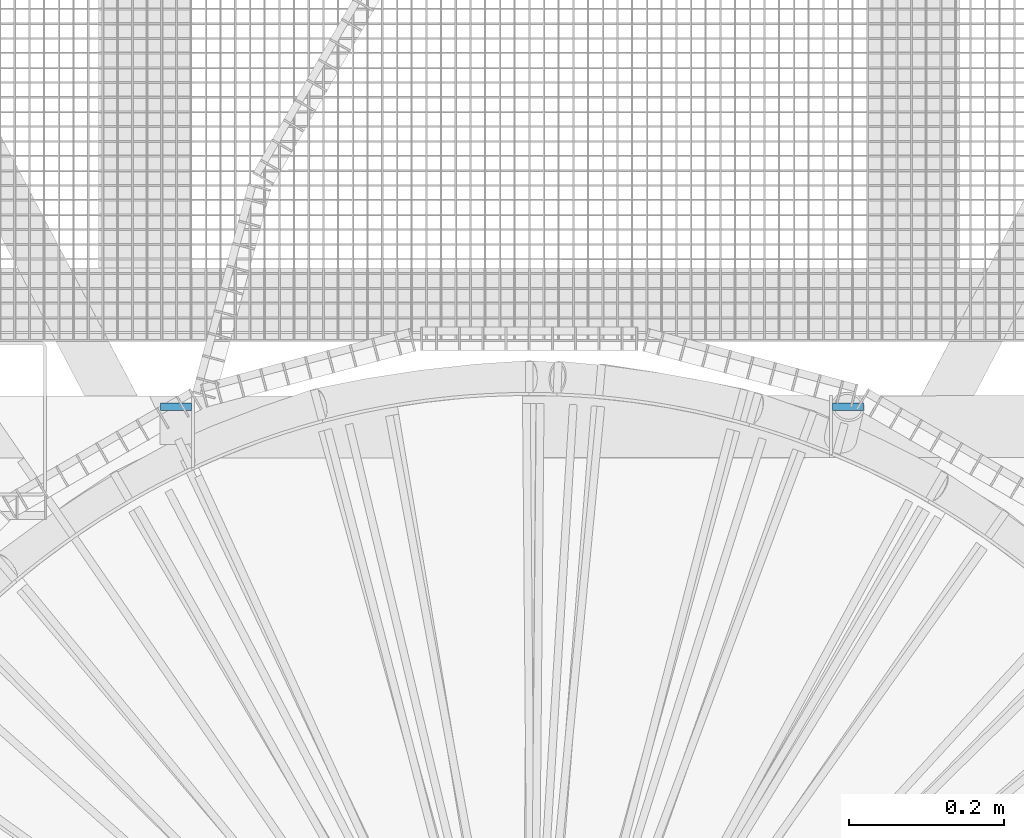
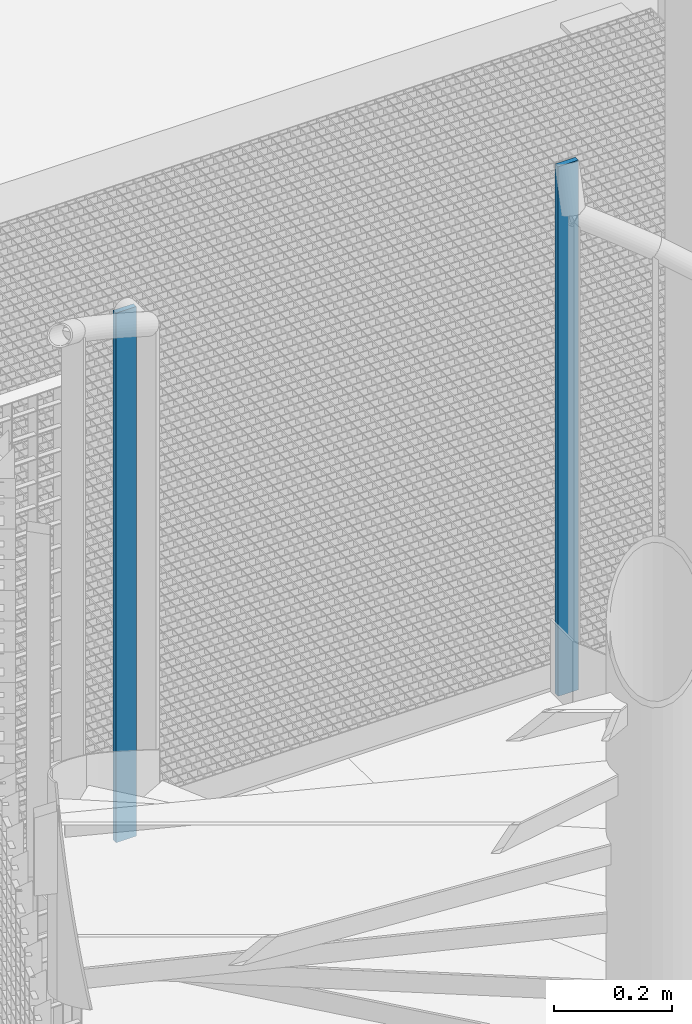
# One storey, part 23 of 1148: 2 columns, 2 elements without a shape of their own.
"""IFC2X3 building model written with IfcOpenShell, lengths in millimetres."""

from ifc_helpers import new_model, si_unit, frame, origin_with_axes, origin_2d_with_axis, place, context, subcontext, project, spatial, rectangle, extrude, material, type_object, element, aggregate, save


model = new_model("IFC2X3")

# Units and contexts
model_context = context("Model", 3, precision=1e-05, world=origin_with_axes())
body_context = subcontext(model_context, "Body", "Model", "MODEL_VIEW")
ifc_project = project(units=[si_unit("LENGTHUNIT", "METRE", prefix="MILLI"), si_unit("AREAUNIT", "SQUARE_METRE"), si_unit("VOLUMEUNIT", "CUBIC_METRE"), si_unit("MASSUNIT", "GRAM", prefix="KILO"), si_unit("TIMEUNIT", "SECOND"), si_unit("PLANEANGLEUNIT", "RADIAN"), si_unit("SOLIDANGLEUNIT", "STERADIAN"), si_unit("THERMODYNAMICTEMPERATUREUNIT", "DEGREE_CELSIUS"), si_unit("LUMINOUSINTENSITYUNIT", "LUMEN")], contexts=[model_context])

# Site, building, storey
site_placement = place(None, origin_with_axes())
site = spatial("IfcSite", under=ifc_project, at=site_placement, Name="Undefined", CompositionType="ELEMENT")
building_placement = place(site_placement, origin_with_axes())
building = spatial("IfcBuilding", under=site, at=building_placement, Name="Undefined", CompositionType="ELEMENT")
storey_placement = place(building_placement, origin_with_axes())
storey = spatial("IfcBuildingStorey", under=building, at=storey_placement, Name="Undefined", CompositionType="ELEMENT", Elevation=0.0)

# Assembly, column
assembly_1_placement = place(storey_placement, origin_with_axes())
assembly_1 = element("IfcElementAssembly", 1, at=assembly_1_placement, inside=storey, Name="MONTANT", AssemblyPlace="NOTDEFINED", PredefinedType="NOTDEFINED")
ifc_material = material(Name="STEEL/S235JR")
column_type = type_object("IfcColumnType", Name="PL10*40", PredefinedType="NOTDEFINED")
column_1_placement = place(assembly_1_placement, frame((-456.462120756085, 1015.37075756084, 10089.84), z_axis=(0.0, 0.0, 1.0), x_axis=(0.999999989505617, -0.000144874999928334, 0.0)))
column_1 = element("IfcColumn", 2, at=column_1_placement, type_object=column_type, material=ifc_material, Name="MONTANT", context=body_context, shape_type="SweptSolid", body=[
    extrude(rectangle(XDim=10.0, YDim=40.0, at=origin_2d_with_axis()), frame((0.0, 0.0, 1100.0), z_axis=(0.0, 0.0, -1.0), x_axis=(0.0, 1.0, 0.0)), (0.0, 0.0, 1.0), 1100.0),
])
aggregate(assembly_1, [column_1])

assembly_2_placement = place(storey_placement, origin_with_axes())
assembly_2 = element("IfcElementAssembly", 3, at=assembly_2_placement, inside=storey, Name="MONTANT", AssemblyPlace="NOTDEFINED", PredefinedType="NOTDEFINED")
column_2_placement = place(assembly_2_placement, frame((411.952120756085, 1015.37075756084, 10089.84), z_axis=(0.0, 0.0, 1.0), x_axis=(-0.999999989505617, -0.000144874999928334, 0.0)))
column_2 = element("IfcColumn", 4, at=column_2_placement, type_object=column_type, material=ifc_material, Name="MONTANT", context=body_context, shape_type="SweptSolid", body=[
    extrude(rectangle(XDim=10.0, YDim=40.0, at=origin_2d_with_axis()), frame((0.0, 0.0, 1100.0), z_axis=(0.0, 0.0, -1.0), x_axis=(0.0, 1.0, 0.0)), (0.0, 0.0, 1.0), 1100.0),
])
aggregate(assembly_2, [column_2])

save(model, "model.ifc")
